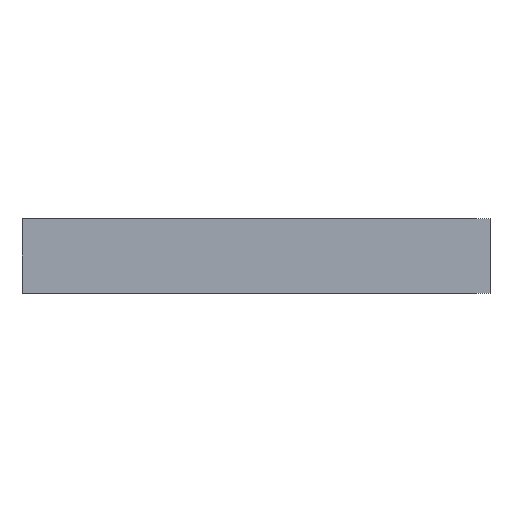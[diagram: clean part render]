
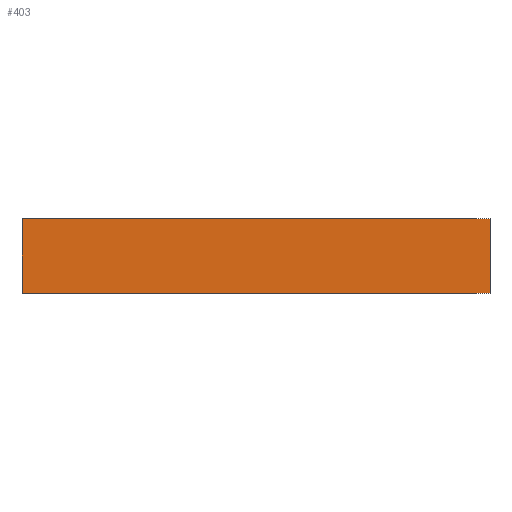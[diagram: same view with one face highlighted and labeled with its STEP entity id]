
A CAD part, front view. The second image highlights one B-rep face of the part: STEP entity #403.
In plain terms, the highlighted planar face has unit normal (0, -1, 0).
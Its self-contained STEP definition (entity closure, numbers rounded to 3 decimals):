
#10 = AXIS2_PLACEMENT_3D ( 'NONE', #520, #512, #511 ) ;
#70 = EDGE_CURVE ( 'NONE', #653, #635, #189, .T. ) ;
#73 = EDGE_CURVE ( 'NONE', #595, #653, #185, .T. ) ;
#80 = EDGE_CURVE ( 'NONE', #595, #695, #173, .T. ) ;
#84 = EDGE_CURVE ( 'NONE', #695, #635, #167, .T. ) ;
#142 = FACE_OUTER_BOUND ( 'NONE', #285, .T. ) ;
#166 = VECTOR ( 'NONE', #585, 1000. ) ;
#167 = LINE ( 'NONE', #586, #166 ) ;
#172 = VECTOR ( 'NONE', #593, 1000. ) ;
#173 = LINE ( 'NONE', #594, #172 ) ;
#184 = VECTOR ( 'NONE', #612, 1000. ) ;
#185 = LINE ( 'NONE', #613, #184 ) ;
#188 = VECTOR ( 'NONE', #618, 1000. ) ;
#189 = LINE ( 'NONE', #619, #188 ) ;
#285 = EDGE_LOOP ( 'NONE', ( #359, #360, #361, #362 ) ) ;
#359 = ORIENTED_EDGE ( 'NONE', *, *, #70, .T. ) ;
#360 = ORIENTED_EDGE ( 'NONE', *, *, #84, .F. ) ;
#361 = ORIENTED_EDGE ( 'NONE', *, *, #80, .F. ) ;
#362 = ORIENTED_EDGE ( 'NONE', *, *, #73, .T. ) ;
#403 = ADVANCED_FACE ( 'NONE', ( #142 ), #534, .F. ) ;
#442 = CARTESIAN_POINT ( 'NONE',  ( 204., 0., 65. ) ) ;
#456 = CARTESIAN_POINT ( 'NONE',  ( -204., 0., 0. ) ) ;
#462 = CARTESIAN_POINT ( 'NONE',  ( 204., 0., 0. ) ) ;
#473 = CARTESIAN_POINT ( 'NONE',  ( -204., 0., 65. ) ) ;
#511 = DIRECTION ( 'NONE',  ( -1., 0., 0. ) ) ;
#512 = DIRECTION ( 'NONE',  ( 0., 1., 0. ) ) ;
#520 = CARTESIAN_POINT ( 'NONE',  ( -204., 0., 65. ) ) ;
#534 = PLANE ( 'NONE',  #10 ) ;
#585 = DIRECTION ( 'NONE',  ( 0., 0., -1. ) ) ;
#586 = CARTESIAN_POINT ( 'NONE',  ( 204., 0., 65. ) ) ;
#593 = DIRECTION ( 'NONE',  ( 1., 0., 0. ) ) ;
#594 = CARTESIAN_POINT ( 'NONE',  ( -204., 0., 65. ) ) ;
#595 = VERTEX_POINT ( 'NONE', #473 ) ;
#612 = DIRECTION ( 'NONE',  ( 0., 0., -1. ) ) ;
#613 = CARTESIAN_POINT ( 'NONE',  ( -204., 0., 65. ) ) ;
#618 = DIRECTION ( 'NONE',  ( 1., 0., 0. ) ) ;
#619 = CARTESIAN_POINT ( 'NONE',  ( -204., 0., 0. ) ) ;
#635 = VERTEX_POINT ( 'NONE', #462 ) ;
#653 = VERTEX_POINT ( 'NONE', #456 ) ;
#695 = VERTEX_POINT ( 'NONE', #442 ) ;
